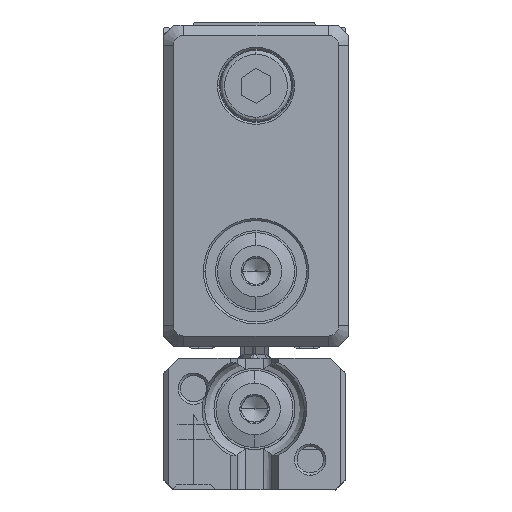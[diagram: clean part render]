
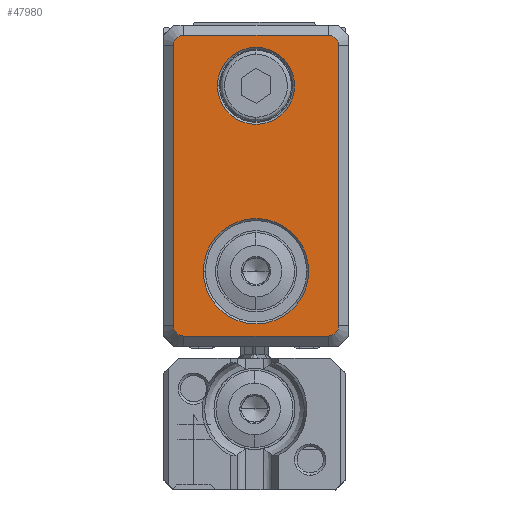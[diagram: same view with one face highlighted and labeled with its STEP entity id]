
A CAD part, left-side view. The second image highlights one B-rep face of the part: STEP entity #47980.
In plain terms, the highlighted planar face has unit normal (-1, 0, 0).
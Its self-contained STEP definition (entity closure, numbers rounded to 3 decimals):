
#12220=CARTESIAN_POINT('',(-677.138,31.,
-50.583));
#12230=VERTEX_POINT('',#12220);
#13040=CARTESIAN_POINT('',(-677.138,30.,
-51.583));
#13050=VERTEX_POINT('',#13040);
#13080=CARTESIAN_POINT('',(-677.138,31.,
-51.583));
#13090=DIRECTION('',(1.,0.,0.));
#13100=DIRECTION('',(0.,1.,0.));
#13110=AXIS2_PLACEMENT_3D('',#13080,#13090,#13100);
#13120=CIRCLE('',#13110,1.);
#13130=EDGE_CURVE('',#12230,#13050,#13120,.T.);
#21390=CARTESIAN_POINT('',(-677.138,43.35,
-56.983));
#21400=VERTEX_POINT('',#21390);
#21430=CARTESIAN_POINT('',(-677.138,38.15,
-56.983));
#21440=DIRECTION('',(1.,0.,0.));
#21450=DIRECTION('',(0.,-1.,0.));
#21460=AXIS2_PLACEMENT_3D('',#21430,#21440,#21450);
#21470=CIRCLE('',#21460,5.2);
#21480=CARTESIAN_POINT('',(-677.138,32.95,
-56.983));
#21490=VERTEX_POINT('',#21480);
#21500=EDGE_CURVE('',#21400,#21490,#21470,.T.);
#35290=CARTESIAN_POINT('',(-677.138,45.3,
-50.583));
#35300=VERTEX_POINT('',#35290);
#35350=CARTESIAN_POINT('',(-677.138,46.75,
-50.583));
#35360=DIRECTION('',(0.,1.,0.));
#35370=VECTOR('',#35360,1.);
#35380=LINE('',#35350,#35370);
#35390=EDGE_CURVE('',#12230,#35300,#35380,.T.);
#35550=CARTESIAN_POINT('',(-677.138,46.3,
-51.583));
#35560=VERTEX_POINT('',#35550);
#36090=CARTESIAN_POINT('',(-677.138,45.3,
-51.583));
#36100=DIRECTION('',(1.,0.,0.));
#36110=DIRECTION('',(0.,1.,0.));
#36120=AXIS2_PLACEMENT_3D('',#36090,#36100,#36110);
#36130=CIRCLE('',#36120,1.);
#36140=EDGE_CURVE('',#35560,#35300,#36130,.T.);
#36350=CARTESIAN_POINT('',(-677.138,46.3,
-79.283));
#36360=VERTEX_POINT('',#36350);
#36480=CARTESIAN_POINT('',(-677.138,46.3,
-49.133));
#36490=DIRECTION('',(0.,0.,-1.));
#36500=VECTOR('',#36490,1.);
#36510=LINE('',#36480,#36500);
#36520=EDGE_CURVE('',#35560,#36360,#36510,.T.);
#36650=CARTESIAN_POINT('',(-677.138,45.3,
-79.283));
#36660=DIRECTION('',(1.,0.,0.));
#36670=DIRECTION('',(0.,1.,0.));
#36680=AXIS2_PLACEMENT_3D('',#36650,#36660,#36670);
#36690=CIRCLE('',#36680,1.);
#36700=CARTESIAN_POINT('',(-677.138,45.3,
-80.283));
#36710=VERTEX_POINT('',#36700);
#36720=EDGE_CURVE('',#36710,#36360,#36690,.T.);
#39040=CARTESIAN_POINT('',(-677.138,31.,
-80.283));
#39050=VERTEX_POINT('',#39040);
#39100=CARTESIAN_POINT('',(-677.138,46.75,
-80.283));
#39110=DIRECTION('',(0.,-1.,0.));
#39120=VECTOR('',#39110,1.);
#39130=LINE('',#39100,#39120);
#39140=EDGE_CURVE('',#36710,#39050,#39130,.T.);
#39500=CARTESIAN_POINT('',(-677.138,31.,
-79.283));
#39510=DIRECTION('',(1.,0.,0.));
#39520=DIRECTION('',(0.,1.,0.));
#39530=AXIS2_PLACEMENT_3D('',#39500,#39510,#39520);
#39540=CIRCLE('',#39530,1.);
#39550=CARTESIAN_POINT('',(-677.138,30.,
-79.283));
#39560=VERTEX_POINT('',#39550);
#39570=EDGE_CURVE('',#39560,#39050,#39540,.T.);
#39840=CARTESIAN_POINT('',(-677.138,30.,
-49.133));
#39850=DIRECTION('',(0.,0.,1.));
#39860=VECTOR('',#39850,1.);
#39870=LINE('',#39840,#39860);
#39880=EDGE_CURVE('',#39560,#13050,#39870,.T.);
#47630=CARTESIAN_POINT('',(-677.138,38.15,
-65.583));
#47640=DIRECTION('',(1.,0.,0.));
#47650=DIRECTION('',(0.,1.,0.));
#47660=AXIS2_PLACEMENT_3D('',#47630,#47640,#47650);
#47670=PLANE('',#47660);
#47680=EDGE_CURVE('',#21490,#21400,#21470,.T.);
#47690=ORIENTED_EDGE('',*,*,#47680,.T.);
#47700=ORIENTED_EDGE('',*,*,#21500,.T.);
#47710=EDGE_LOOP('',(#47700,#47690));
#47720=FACE_BOUND('',#47710,.T.);
#47730=CARTESIAN_POINT('',(-677.138,38.15,
-75.283));
#47740=DIRECTION('',(-1.,0.,0.));
#47750=DIRECTION('',(0.,1.,0.));
#47760=AXIS2_PLACEMENT_3D('',#47730,#47740,#47750);
#47770=CIRCLE('',#47760,3.8);
#47780=CARTESIAN_POINT('',(-677.138,34.35,
-75.283));
#47790=VERTEX_POINT('',#47780);
#47800=CARTESIAN_POINT('',(-677.138,41.95,
-75.283));
#47810=VERTEX_POINT('',#47800);
#47820=EDGE_CURVE('',#47790,#47810,#47770,.T.);
#47830=ORIENTED_EDGE('',*,*,#47820,.F.);
#47840=EDGE_CURVE('',#47810,#47790,#47770,.T.);
#47850=ORIENTED_EDGE('',*,*,#47840,.F.);
#47860=EDGE_LOOP('',(#47850,#47830));
#47870=FACE_BOUND('',#47860,.T.);
#47880=ORIENTED_EDGE('',*,*,#39140,.T.);
#47890=ORIENTED_EDGE('',*,*,#36720,.F.);
#47900=ORIENTED_EDGE('',*,*,#36520,.T.);
#47910=ORIENTED_EDGE('',*,*,#36140,.F.);
#47920=ORIENTED_EDGE('',*,*,#35390,.T.);
#47930=ORIENTED_EDGE('',*,*,#13130,.F.);
#47940=ORIENTED_EDGE('',*,*,#39880,.T.);
#47950=ORIENTED_EDGE('',*,*,#39570,.F.);
#47960=EDGE_LOOP('',(#47950,#47940,#47930,#47920,#47910,#47900,#47890,
#47880));
#47970=FACE_OUTER_BOUND('',#47960,.T.);
#47980=ADVANCED_FACE('',(#47720,#47870,#47970),#47670,.F.);
